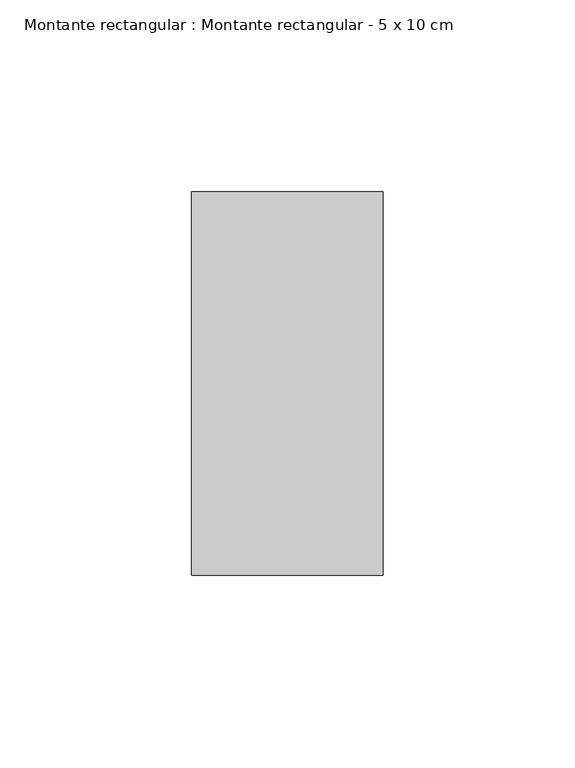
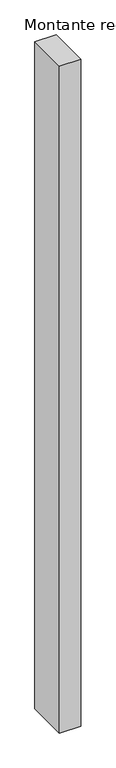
"""IFC4 building model written with IfcOpenShell, lengths in millimetres: member geometry, Montante rectangular : Montante rectangular - 5 x 10 cm."""

import ifcopenshell
import ifcopenshell.guid

model = None  # the IFC model being written
_history = None  # IfcOwnerHistory: only IFC2X3 demands one
_inside = {}  # id of a spatial element -> (the spatial element, [elements in it])
_under = {}  # id of a project, library or spatial element -> (it, [spatial elements below it])
_declared = {}  # id of a project -> (the project, [libraries it declares])
_typed = {}  # id of a type object -> (the type object, [elements of that type])
_made_of = {}  # id of a material, layer set ... -> (it, [elements and type objects made of it])


def new_model(schema):
    """Start an empty IFC model of exactly this schema.

    Asked for "IFC4X3", IfcOpenShell would pick the latest addendum, in which some entities
    have other attributes; the version numbers below select the first issue.
    IFC2X3 requires an IfcOwnerHistory on every rooted entity: one is made here for all.
    """
    global model, _history
    if schema == "IFC4X3":
        model = ifcopenshell.file(schema_version=(4, 3, 0, 0))
    else:
        model = ifcopenshell.file(schema=schema)
    _inside.clear()
    _under.clear()
    _declared.clear()
    _typed.clear()
    _made_of.clear()
    _history = None
    if model.schema == "IFC2X3":
        org = make("IfcOrganization", Name="unknown")
        user = make(
            "IfcPersonAndOrganization",
            ThePerson=make("IfcPerson", FamilyName="unknown"),
            TheOrganization=org,
        )
        app = make(
            "IfcApplication",
            ApplicationDeveloper=org,
            Version="unknown",
            ApplicationFullName="unknown",
            ApplicationIdentifier="unknown",
        )
        _history = make(
            "IfcOwnerHistory",
            OwningUser=user,
            OwningApplication=app,
            ChangeAction="ADDED",
            CreationDate=0,
        )
    return model


def make(cls, **values):
    """One entity of the class cls with the attributes given. An attribute that is None is left unset."""
    return model.create_entity(
        cls, **{name: value for name, value in values.items() if value is not None}
    )


def rooted(cls, **values):
    """An entity with a GlobalId (a new one), such as an element, a storey or a relation."""
    return make(cls, GlobalId=ifcopenshell.guid.new(), OwnerHistory=_history, **values)


def si_unit(unit_type, name, prefix=None):
    """IfcSIUnit, for example si_unit("LENGTHUNIT", "METRE", prefix="MILLI")."""
    return make("IfcSIUnit", UnitType=unit_type, Prefix=prefix, Name=name)


def assignment(units):
    """IfcUnitAssignment: the units of a project."""
    return None if units is None else make("IfcUnitAssignment", Units=units)


def point(xyz):
    """IfcCartesianPoint."""
    return None if xyz is None else make("IfcCartesianPoint", Coordinates=xyz)


def direction(xyz):
    """IfcDirection."""
    return None if xyz is None else make("IfcDirection", DirectionRatios=xyz)


def frame(location, z_axis=None, x_axis=None):
    """IfcAxis2Placement3D, a coordinate frame: its origin and axes. An axis left out is left unset."""
    return make(
        "IfcAxis2Placement3D",
        Location=point(location),
        Axis=direction(z_axis),
        RefDirection=direction(x_axis),
    )


def origin():
    """The frame at (0, 0, 0) with its axes left unset."""
    return frame((0.0, 0.0, 0.0))


def place(relative_to, where):
    """IfcLocalPlacement: puts the frame where relative to a parent placement (None: the world)."""
    return make(
        "IfcLocalPlacement", PlacementRelTo=relative_to, RelativePlacement=where
    )


def context(
    kind, dimensions, precision=None, world=None, true_north=None, identifier=None
):
    """IfcGeometricRepresentationContext, for example the 3D "Model" context."""
    return make(
        "IfcGeometricRepresentationContext",
        ContextIdentifier=identifier,
        ContextType=kind,
        CoordinateSpaceDimension=dimensions,
        Precision=precision,
        WorldCoordinateSystem=world,
        TrueNorth=true_north,
    )


def project(units=None, contexts=None):
    """IfcProject with its units and contexts."""
    return rooted(
        "IfcProject",
        Name="project",
        RepresentationContexts=contexts,
        UnitsInContext=assignment(units),
    )


def spatial(cls, under=None, at=None, **own):
    """A site, building, storey or space (cls), placed at a placement, below another one or the project."""
    s = rooted(cls, ObjectPlacement=at, **own)
    if under is not None:
        _under.setdefault(under.id(), (under, []))[1].append(s)
    return s


def polyline(points):
    """IfcPolyline through the points."""
    return make("IfcPolyline", Points=[point(p) for p in points])


def outline(outer, holes=None, kind="AREA"):
    """IfcArbitraryClosedProfileDef: a profile drawn as a closed curve; with holes, ...WithVoids."""
    if holes is None:
        return make("IfcArbitraryClosedProfileDef", ProfileType=kind, OuterCurve=outer)
    return make(
        "IfcArbitraryProfileDefWithVoids",
        ProfileType=kind,
        OuterCurve=outer,
        InnerCurves=holes,
    )


def extrude(swept, where, along, depth):
    """IfcExtrudedAreaSolid: the profile swept, set in the frame where, extruded along a direction by depth."""
    return make(
        "IfcExtrudedAreaSolid",
        SweptArea=swept,
        Position=where,
        ExtrudedDirection=direction(along),
        Depth=depth,
    )


def shape(context_of_items, identifier, shape_type, items):
    """IfcShapeRepresentation: the items that make up one representation, for example the "Body"."""
    return make(
        "IfcShapeRepresentation",
        ContextOfItems=context_of_items,
        RepresentationIdentifier=identifier,
        RepresentationType=shape_type,
        Items=items,
    )


def source(mapping_origin, context_of_items, identifier, shape_type, items):
    """IfcRepresentationMap: a shape defined once, which mapped items show again and again."""
    return make(
        "IfcRepresentationMap",
        MappingOrigin=mapping_origin,
        MappedRepresentation=shape(context_of_items, identifier, shape_type, items),
    )


def transform(
    local_origin,
    x_axis=None,
    y_axis=None,
    z_axis=None,
    scale=None,
    scale2=None,
    scale3=None,
    uniform=True,
):
    """IfcCartesianTransformationOperator3D, or its non-uniform kind. x_axis, y_axis, z_axis: its Axis1, 2, 3."""
    if uniform:
        return make(
            "IfcCartesianTransformationOperator3D",
            Axis1=direction(x_axis),
            Axis2=direction(y_axis),
            LocalOrigin=point(local_origin),
            Scale=scale,
            Axis3=direction(z_axis),
        )
    return make(
        "IfcCartesianTransformationOperator3DnonUniform",
        Axis1=direction(x_axis),
        Axis2=direction(y_axis),
        LocalOrigin=point(local_origin),
        Scale=scale,
        Axis3=direction(z_axis),
        Scale2=scale2,
        Scale3=scale3,
    )


def mapped(mapping_source, mapping_target):
    """IfcMappedItem: shows the shape of a source again, moved by a transform."""
    return make(
        "IfcMappedItem", MappingSource=mapping_source, MappingTarget=mapping_target
    )


def made_of(thing, what):
    """Note that an element or type object is made of a material, layer set ...; save() writes the relation."""
    if what is not None:
        _made_of.setdefault(what.id(), (what, []))[1].append(thing)
    return thing


def element(
    cls,
    number,
    at=None,
    inside=None,
    cuts=None,
    type_object=None,
    material=None,
    context=None,
    identifier="Body",
    shape_type=None,
    held_by="IfcProductDefinitionShape",
    body=None,
    shapes=None,
    **own,
):
    """One element of the class cls, such as IfcWall. Its Tag is "e" and its number.

    at: its placement. inside: the storey or other place that contains it. cuts: it is an
    opening in that element (IfcRelVoidsElement). A single representation is given by context,
    identifier, shape_type and body (its items); several are given by shapes. held_by: the class
    of the entity that holds the representations. save() writes the other relations.
    """
    e = rooted(cls, Tag="e%d" % number, ObjectPlacement=at, **own)
    if body is not None:
        shapes = [shape(context, identifier, shape_type, body)]
    if shapes is not None:
        e.Representation = make(held_by, Representations=shapes)
    if inside is not None:
        _inside.setdefault(inside.id(), (inside, []))[1].append(e)
    if cuts is not None:
        rooted(
            "IfcRelVoidsElement", RelatingBuildingElement=cuts, RelatedOpeningElement=e
        )
    if type_object is not None:
        _typed.setdefault(type_object.id(), (type_object, []))[1].append(e)
    return made_of(e, material)


def aggregate(whole, parts):
    """IfcRelAggregates: a whole, such as a stair, and the parts it consists of."""
    return rooted("IfcRelAggregates", RelatingObject=whole, RelatedObjects=parts)


def save(model, path):
    """Write the relations noted so far, then the file.

    IfcRelAggregates (storeys below a building ...), IfcRelContainedInSpatialStructure (elements
    in a storey), IfcRelDefinesByType, IfcRelAssociatesMaterial and IfcRelDeclares: one each for
    every whole, place, type object, material and project.
    """
    for whole, parts in _under.values():
        aggregate(whole, parts)
    for where, things in _inside.values():
        rooted(
            "IfcRelContainedInSpatialStructure",
            RelatedElements=things,
            RelatingStructure=where,
        )
    for kind, things in _typed.values():
        rooted("IfcRelDefinesByType", RelatedObjects=things, RelatingType=kind)
    for what, things in _made_of.values():
        rooted("IfcRelAssociatesMaterial", RelatedObjects=things, RelatingMaterial=what)
    for by, libraries in _declared.values():
        rooted("IfcRelDeclares", RelatingContext=by, RelatedDefinitions=libraries)
    model.write(path)


def montante_rectangular_montante_rectangular_5_x_10_cm_4de56248(model_context):
    return source(origin(), model_context, "Body", "SweptSolid", [
        extrude(outline(polyline([(25.0, 50.0), (25.0, -50.0), (-25.0, -50.0), (-25.0, 50.0), (25.0, 50.0)])), frame((0.0, 0.0, -1655.0), z_axis=(0.0, 0.0, 1.0), x_axis=(1.0, 0.0, 0.0)), (0.0, 0.0, 1.0), 1655.0),
    ])


if __name__ == "__main__":
    model = new_model("IFC4")
    model_context = context("Model", 3, world=origin())
    ifc_project = project(units=[si_unit("LENGTHUNIT", "METRE", prefix="MILLI")], contexts=[model_context])
    site = spatial("IfcSite", under=ifc_project)
    building = spatial("IfcBuilding", under=site)
    placement = place(None, origin())
    montante_rectangular_montante_rectangular_5_x_10_cm_shape = montante_rectangular_montante_rectangular_5_x_10_cm_4de56248(model_context)
    element("IfcMember", 1, ObjectType="Montante rectangular : Montante rectangular - 5 x 10 cm", at=placement, inside=building, context=model_context, shape_type="MappedRepresentation", body=[
        mapped(montante_rectangular_montante_rectangular_5_x_10_cm_shape, transform((0.0, 0.0, 0.0), x_axis=(1.0, 0.0, 0.0), y_axis=(0.0, 1.0, 0.0), z_axis=(0.0, 0.0, 1.0))),
    ])
    save(model, "model.ifc")
